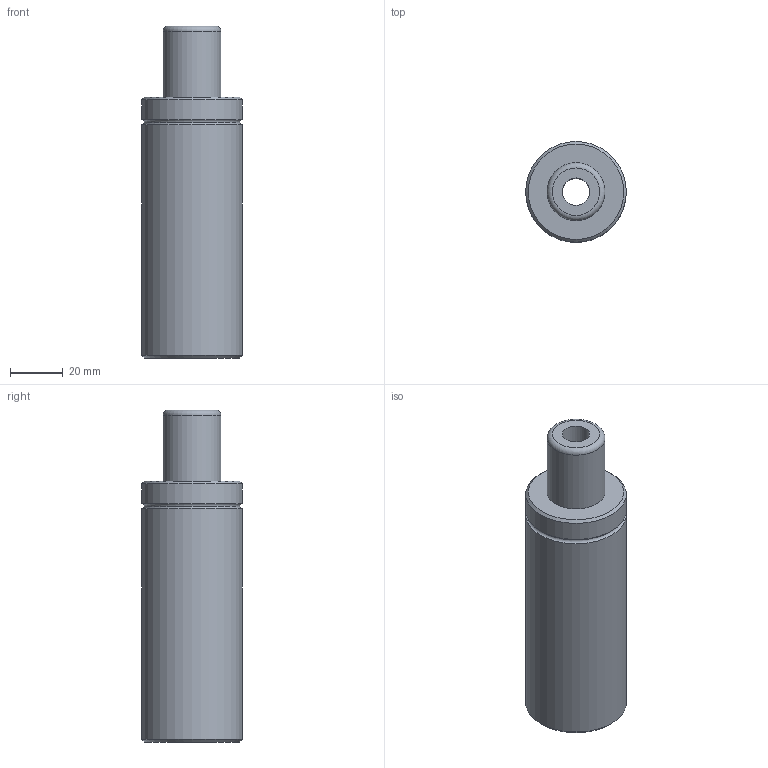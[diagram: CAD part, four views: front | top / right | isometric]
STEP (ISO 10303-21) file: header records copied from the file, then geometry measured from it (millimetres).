
FILE_DESCRIPTION(('FreeCAD Model'),'2;1');
FILE_NAME('Open CASCADE Shape Model','2024-11-14T08:03:21',('Author'),( ''),'Open CASCADE STEP processor 7.6','FreeCAD','Unknown');
FILE_SCHEMA(('AUTOMOTIVE_DESIGN { 1 0 10303 214 1 1 1 1 }'));
Length unit declared in the file: millimetre
Products named in the file (5): Unnamed; Part001; Fillet; Part005; Cut001
Assembly tree (4 placements, depth 3):
  Unnamed
    Part001
      Fillet
    Part005
      Cut001
Bounding box: 38.2 x 38.2 x 126 mm (x, y, z)
Volume: 112380.5 mm3; surface area: 20685 mm2
Topology: 2 solids, 2 shells, 16 faces, 27 edges, 16 vertices
Faces by surface type: cylinder 6, plane 5, torus 3, cone 2
Full cylindrical faces by diameter (mm): 6 x1, 10.4 x2, 22 x1, 38.2 x2
Entity records: 492 total; most frequent: DIRECTION 88, CARTESIAN_POINT 64, ORIENTED_EDGE 54, AXIS2_PLACEMENT_3D 40, EDGE_CURVE 27, FACE_BOUND 21, EDGE_LOOP 21, CIRCLE 19
